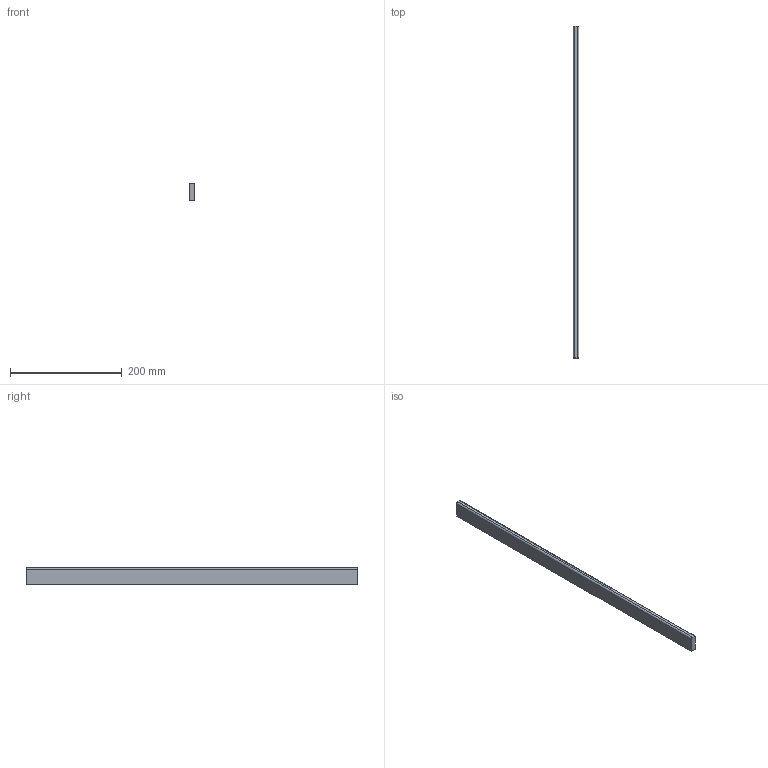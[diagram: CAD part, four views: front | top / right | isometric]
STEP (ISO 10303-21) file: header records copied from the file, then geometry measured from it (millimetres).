
FILE_DESCRIPTION (( 'STEP AP214' ), '1' );
FILE_NAME ('_Seitenreling_SP60700300_RL595.step', '2010-09-06T14:52:17', ( 'grass' ), ( '' ), 'SwSTEP 2.0', 'SolidWorks 2010', '' );
FILE_SCHEMA (( 'AUTOMOTIVE_DESIGN' ));
Length unit declared in the file: millimetre
Products named in the file (1): _Seitenreling_SP60700300_RL595
Bounding box: 10.5 x 595 x 30 mm (x, y, z)
Volume: 185126.6 mm3; surface area: 47285 mm2
Topology: 1 solids, 1 shells, 8 faces, 18 edges, 12 vertices
Faces by surface type: plane 6, cylinder 2
Entity records: 260 total; most frequent: DIRECTION 40, CARTESIAN_POINT 39, ORIENTED_EDGE 36, EDGE_CURVE 18, VECTOR 14, LINE 14, AXIS2_PLACEMENT_3D 13, VERTEX_POINT 12
